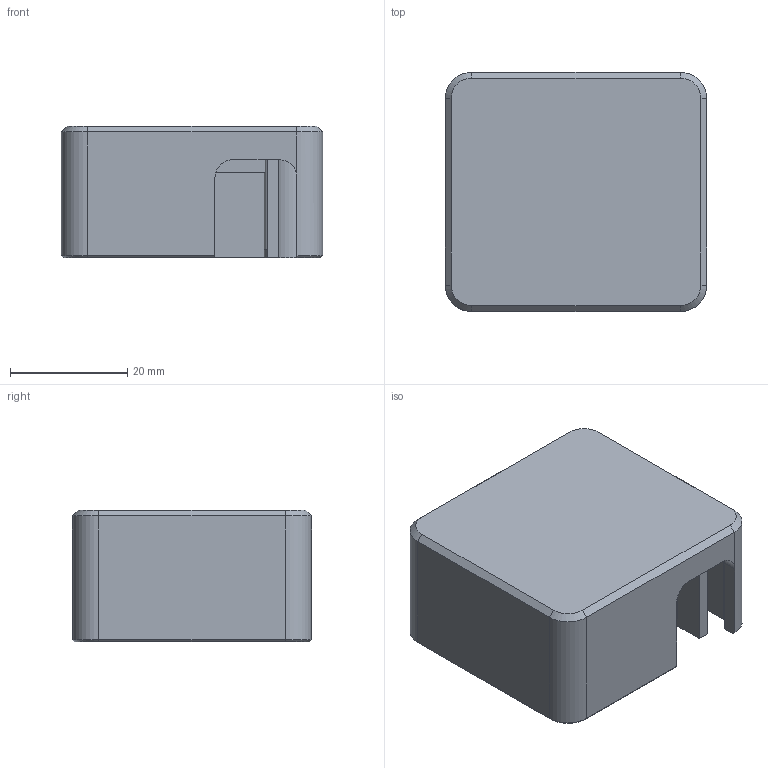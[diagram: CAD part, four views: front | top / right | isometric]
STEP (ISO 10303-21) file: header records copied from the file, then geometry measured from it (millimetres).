
FILE_DESCRIPTION(('Open CASCADE Model'),'2;1');
FILE_NAME('Open CASCADE Shape Model','2026-11-23T07:25:47',('Author'),( 'Open CASCADE'),'Open CASCADE STEP processor 7.9','Open CASCADE 7.9' ,'Unknown');
FILE_SCHEMA(('AUTOMOTIVE_DESIGN { 1 0 10303 214 1 1 1 1 }'));
Length unit declared in the file: millimetre
Products named in the file (1): Open CASCADE STEP translator 7.9 3
Bounding box: 44.63 x 40.8 x 22.5 mm (x, y, z)
Volume: 13996 mm3; surface area: 11713.4 mm2
Topology: 1 solids, 1 shells, 71 faces, 179 edges, 114 vertices
Faces by surface type: plane 42, cylinder 21, cone 8
Full cylindrical faces by diameter (mm): 2.8 x2
Entity records: 4390 total; most frequent: CARTESIAN_POINT 964, DIRECTION 585, ORIENTED_EDGE 358, PCURVE 358, DEFINITIONAL_REPRESENTATION 358, LINE 310, VECTOR 310, EDGE_CURVE 179
